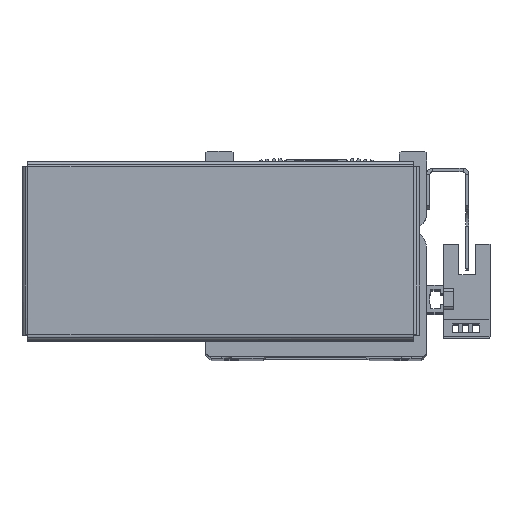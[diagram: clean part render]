
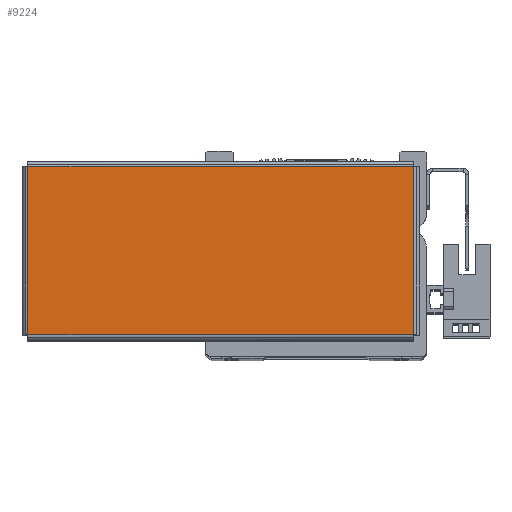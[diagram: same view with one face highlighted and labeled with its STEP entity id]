
A CAD part, top view. The second image highlights one B-rep face of the part: STEP entity #9224.
In plain terms, the highlighted planar face has unit normal (0, 0, 1) as drawn and (0, 0, -1) by its records, which use the part's own axes.
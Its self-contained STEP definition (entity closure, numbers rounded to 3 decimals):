
#4284 = CARTESIAN_POINT ( 'NONE',  ( 56.863, -24.763, -1. ) ) ;
#4296 = CARTESIAN_POINT ( 'NONE',  ( 56.863, 24.763, -1. ) ) ;
#4316 = CARTESIAN_POINT ( 'NONE',  ( -56.863, 24.763, -1. ) ) ;
#4332 = CARTESIAN_POINT ( 'NONE',  ( -56.863, -24.763, -1. ) ) ;
#9224 = ADVANCED_FACE ( 'NONE', ( #21659 ), #30812, .F. ) ;
#10582 = EDGE_CURVE ( 'NONE', #17541, #17539, #41142, .T. ) ;
#10583 = EDGE_CURVE ( 'NONE', #17542, #17541, #41131, .T. ) ;
#10615 = EDGE_CURVE ( 'NONE', #17539, #17538, #41118, .T. ) ;
#10645 = EDGE_CURVE ( 'NONE', #17538, #17542, #41213, .T. ) ;
#14163 = EDGE_LOOP ( 'NONE', ( #20823, #21036, #21006, #20925 ) ) ;
#17538 = VERTEX_POINT ( 'NONE', #4296 ) ;
#17539 = VERTEX_POINT ( 'NONE', #4316 ) ;
#17541 = VERTEX_POINT ( 'NONE', #4332 ) ;
#17542 = VERTEX_POINT ( 'NONE', #4284 ) ;
#20823 = ORIENTED_EDGE ( 'NONE', *, *, #10645, .T. ) ;
#20925 = ORIENTED_EDGE ( 'NONE', *, *, #10615, .T. ) ;
#21006 = ORIENTED_EDGE ( 'NONE', *, *, #10582, .T. ) ;
#21036 = ORIENTED_EDGE ( 'NONE', *, *, #10583, .T. ) ;
#21659 = FACE_OUTER_BOUND ( 'NONE', #14163, .T. ) ;
#30803 = DIRECTION ( 'NONE',  ( 0., 0., 1. ) ) ;
#30806 = CARTESIAN_POINT ( 'NONE',  ( 0., 0., -1. ) ) ;
#30812 = PLANE ( 'NONE',  #33026 ) ;
#30830 = DIRECTION ( 'NONE',  ( 1., 0., 0. ) ) ;
#33026 = AXIS2_PLACEMENT_3D ( 'NONE', #30806, #30803, #30830 ) ;
#41108 = VECTOR ( 'NONE', #42500, 1000. ) ;
#41118 = LINE ( 'NONE', #42581, #41144 ) ;
#41131 = LINE ( 'NONE', #42481, #41134 ) ;
#41134 = VECTOR ( 'NONE', #42472, 1000. ) ;
#41142 = LINE ( 'NONE', #42493, #41108 ) ;
#41144 = VECTOR ( 'NONE', #42567, 1000. ) ;
#41197 = VECTOR ( 'NONE', #42071, 1000. ) ;
#41213 = LINE ( 'NONE', #41770, #41197 ) ;
#41770 = CARTESIAN_POINT ( 'NONE',  ( 56.863, 24.793, -1. ) ) ;
#42071 = DIRECTION ( 'NONE',  ( 0., -1., 0. ) ) ;
#42472 = DIRECTION ( 'NONE',  ( -1., 0., 0. ) ) ;
#42481 = CARTESIAN_POINT ( 'NONE',  ( 56.893, -24.763, -1. ) ) ;
#42493 = CARTESIAN_POINT ( 'NONE',  ( -56.863, -24.793, -1. ) ) ;
#42500 = DIRECTION ( 'NONE',  ( 0., 1., 0. ) ) ;
#42567 = DIRECTION ( 'NONE',  ( 1., 0., 0. ) ) ;
#42581 = CARTESIAN_POINT ( 'NONE',  ( -56.893, 24.763, -1. ) ) ;
